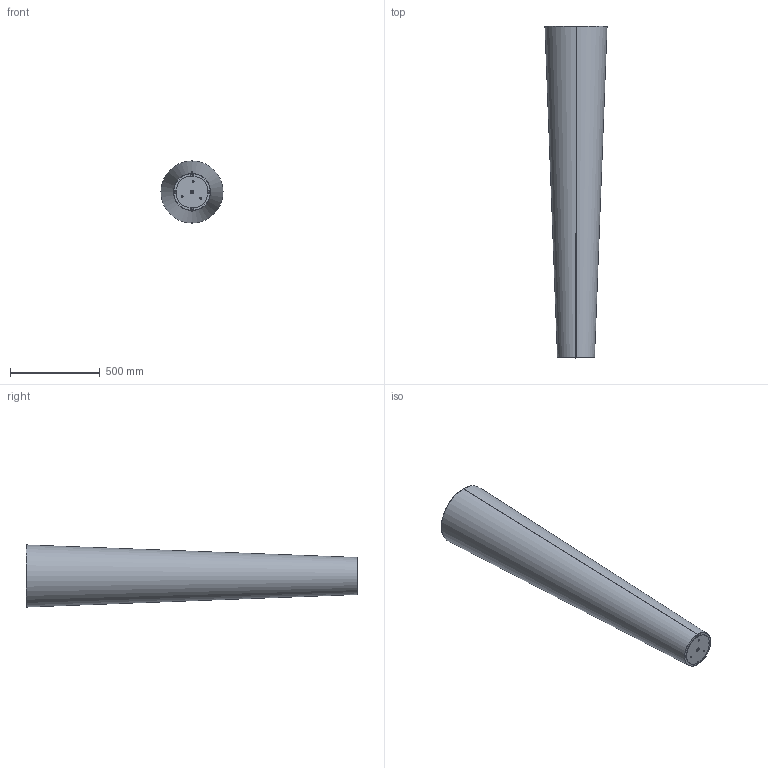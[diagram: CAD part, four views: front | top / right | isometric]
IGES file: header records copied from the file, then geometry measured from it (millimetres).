
Start section: SolidWorks IGES file using analytic representation for surfaces
Global section: file name: \\utenti\Dati Utenti\Tecnico\DC\2D - 3D per sito\3D\DeCastelli-3D-Narnya 185.igs; native system: SolidWorks 2022; preprocessor: SolidWorks 2022; author: Simonep; date: 240807.172512; units: millimetre
Bounding box: 346.87 x 1854.2 x 346.87 mm (x, y, z)
Surface area: 3480985.3 mm2 (no closed solid volume)
Topology: 0 solids, 0 shells, 58 faces, 1272 edges, 1272 vertices
Faces by surface type: revolution 32, bspline 26
